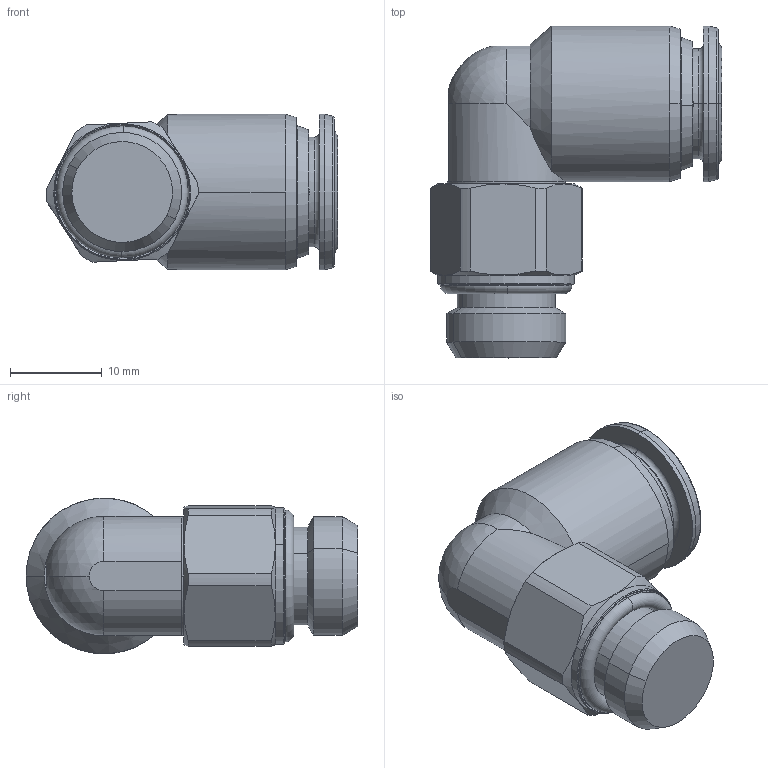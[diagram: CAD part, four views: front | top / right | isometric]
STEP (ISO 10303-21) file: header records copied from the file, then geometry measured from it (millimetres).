
FILE_DESCRIPTION (( 'STEP AP214' ), '1' );
FILE_NAME ('60115X0007.STEP', '2022-05-20T12:20:15', ( '' ), ( '' ), 'SwSTEP 2.0', 'SolidWorks 2020', '' );
FILE_SCHEMA (( 'AUTOMOTIVE_DESIGN' ));
Length unit declared in the file: millimetre
Products named in the file (1): 60115X0007
Bounding box: 31.85 x 36.25 x 17 mm (x, y, z)
Volume: 7144.1 mm3; surface area: 4037.8 mm2
Topology: 1 solids, 3 shells, 133 faces, 319 edges, 197 vertices
Faces by surface type: cylinder 47, plane 40, cone 30, torus 14, sphere 2
Entity records: 5142 total; most frequent: CARTESIAN_POINT 895, DIRECTION 706, ORIENTED_EDGE 634, EDGE_CURVE 317, AXIS2_PLACEMENT_3D 294, VERTEX_POINT 197, CIRCLE 160, EDGE_LOOP 140
